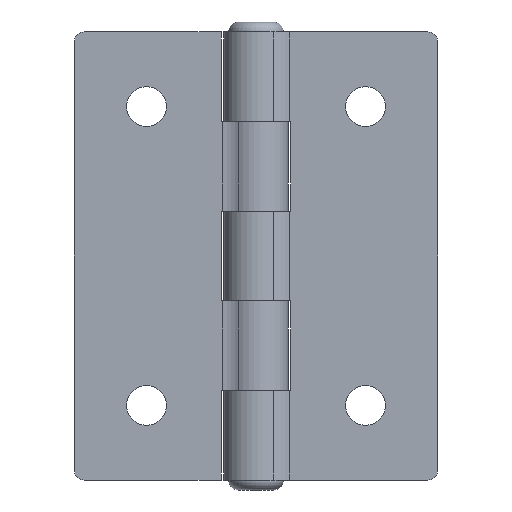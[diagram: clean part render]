
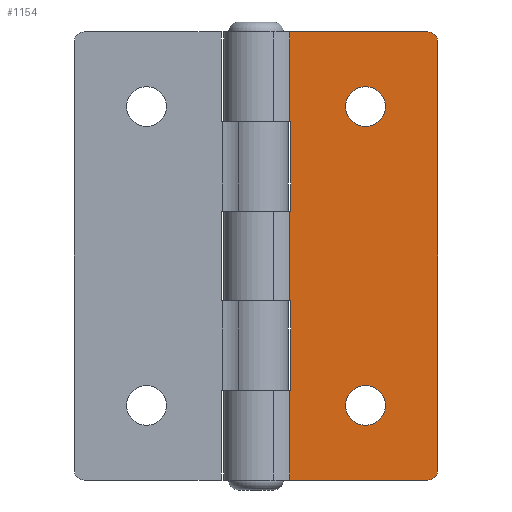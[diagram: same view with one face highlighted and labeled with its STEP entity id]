
A CAD part, front view. The second image highlights one B-rep face of the part: STEP entity #1154.
In plain terms, the highlighted planar face has unit normal (0, -1, 0).
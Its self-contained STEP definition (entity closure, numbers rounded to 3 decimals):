
#33=FACE_BOUND('',#185,.T.);
#34=FACE_BOUND('',#186,.T.);
#109=FACE_OUTER_BOUND('',#184,.T.);
#184=EDGE_LOOP('',(#948,#949,#950,#951,#952,#953,#954,#955,#956,#957,#958,
#959,#960,#961));
#185=EDGE_LOOP('',(#962));
#186=EDGE_LOOP('',(#963));
#272=CIRCLE('',#1268,1.);
#273=CIRCLE('',#1269,1.);
#274=CIRCLE('',#1270,2.);
#275=CIRCLE('',#1271,2.);
#342=LINE('',#1842,#438);
#346=LINE('',#1858,#442);
#349=LINE('',#1864,#445);
#352=LINE('',#1879,#448);
#356=LINE('',#1895,#452);
#359=LINE('',#1901,#455);
#362=LINE('',#1915,#458);
#363=LINE('',#1917,#459);
#364=LINE('',#1921,#460);
#365=LINE('',#1925,#461);
#366=LINE('',#1926,#462);
#367=LINE('',#1927,#463);
#438=VECTOR('',#1482,0.109);
#442=VECTOR('',#1496,9.);
#445=VECTOR('',#1501,0.109);
#448=VECTOR('',#1514,0.109);
#452=VECTOR('',#1528,9.);
#455=VECTOR('',#1533,0.109);
#458=VECTOR('',#1546,9.);
#459=VECTOR('',#1547,13.859);
#460=VECTOR('',#1550,43.);
#461=VECTOR('',#1553,13.859);
#462=VECTOR('',#1554,9.);
#463=VECTOR('',#1555,9.);
#538=VERTEX_POINT('',#1840);
#539=VERTEX_POINT('',#1841);
#546=VERTEX_POINT('',#1857);
#548=VERTEX_POINT('',#1863);
#554=VERTEX_POINT('',#1877);
#555=VERTEX_POINT('',#1878);
#562=VERTEX_POINT('',#1894);
#564=VERTEX_POINT('',#1900);
#570=VERTEX_POINT('',#1914);
#571=VERTEX_POINT('',#1916);
#572=VERTEX_POINT('',#1918);
#573=VERTEX_POINT('',#1920);
#574=VERTEX_POINT('',#1922);
#575=VERTEX_POINT('',#1924);
#576=VERTEX_POINT('',#1928);
#577=VERTEX_POINT('',#1930);
#674=EDGE_CURVE('',#538,#539,#342,.T.);
#682=EDGE_CURVE('',#546,#538,#346,.T.);
#685=EDGE_CURVE('',#548,#546,#349,.T.);
#692=EDGE_CURVE('',#554,#555,#352,.T.);
#700=EDGE_CURVE('',#562,#554,#356,.T.);
#703=EDGE_CURVE('',#564,#562,#359,.T.);
#710=EDGE_CURVE('',#539,#570,#362,.T.);
#711=EDGE_CURVE('',#570,#571,#363,.T.);
#712=EDGE_CURVE('',#571,#572,#272,.T.);
#713=EDGE_CURVE('',#573,#572,#364,.T.);
#714=EDGE_CURVE('',#573,#574,#273,.T.);
#715=EDGE_CURVE('',#574,#575,#365,.T.);
#716=EDGE_CURVE('',#575,#564,#366,.T.);
#717=EDGE_CURVE('',#555,#548,#367,.T.);
#718=EDGE_CURVE('',#576,#576,#274,.T.);
#719=EDGE_CURVE('',#577,#577,#275,.T.);
#948=ORIENTED_EDGE('',*,*,#685,.T.);
#949=ORIENTED_EDGE('',*,*,#682,.T.);
#950=ORIENTED_EDGE('',*,*,#674,.T.);
#951=ORIENTED_EDGE('',*,*,#710,.T.);
#952=ORIENTED_EDGE('',*,*,#711,.T.);
#953=ORIENTED_EDGE('',*,*,#712,.T.);
#954=ORIENTED_EDGE('',*,*,#713,.F.);
#955=ORIENTED_EDGE('',*,*,#714,.T.);
#956=ORIENTED_EDGE('',*,*,#715,.T.);
#957=ORIENTED_EDGE('',*,*,#716,.T.);
#958=ORIENTED_EDGE('',*,*,#703,.T.);
#959=ORIENTED_EDGE('',*,*,#700,.T.);
#960=ORIENTED_EDGE('',*,*,#692,.T.);
#961=ORIENTED_EDGE('',*,*,#717,.T.);
#962=ORIENTED_EDGE('',*,*,#718,.F.);
#963=ORIENTED_EDGE('',*,*,#719,.F.);
#1108=PLANE('',#1267);
#1154=ADVANCED_FACE('',(#109,#33,#34),#1108,.F.);
#1267=AXIS2_PLACEMENT_3D('',#1913,#1544,#1545);
#1268=AXIS2_PLACEMENT_3D('',#1919,#1548,#1549);
#1269=AXIS2_PLACEMENT_3D('',#1923,#1551,#1552);
#1270=AXIS2_PLACEMENT_3D('',#1929,#1556,#1557);
#1271=AXIS2_PLACEMENT_3D('',#1931,#1558,#1559);
#1482=DIRECTION('',(-1.,0.,0.));
#1496=DIRECTION('',(0.,0.,-1.));
#1501=DIRECTION('',(1.,0.,0.));
#1514=DIRECTION('',(-1.,0.,0.));
#1528=DIRECTION('',(0.,0.,-1.));
#1533=DIRECTION('',(1.,0.,0.));
#1544=DIRECTION('center_axis',(0.,1.,0.));
#1545=DIRECTION('ref_axis',(-1.,0.,0.));
#1546=DIRECTION('',(0.,0.,-1.));
#1547=DIRECTION('',(1.,0.,0.));
#1548=DIRECTION('center_axis',(0.,-1.,0.));
#1549=DIRECTION('ref_axis',(0.707,0.,-0.707));
#1550=DIRECTION('',(0.,0.,-1.));
#1551=DIRECTION('center_axis',(0.,-1.,0.));
#1552=DIRECTION('ref_axis',(0.707,0.,0.707));
#1553=DIRECTION('',(-1.,0.,0.));
#1554=DIRECTION('',(0.,0.,-1.));
#1555=DIRECTION('',(0.,0.,-1.));
#1556=DIRECTION('center_axis',(0.,-1.,0.));
#1557=DIRECTION('ref_axis',(-1.,0.,0.));
#1558=DIRECTION('center_axis',(0.,-1.,0.));
#1559=DIRECTION('ref_axis',(-1.,0.,0.));
#1840=CARTESIAN_POINT('',(3.5,-2.25,-13.5));
#1841=CARTESIAN_POINT('',(3.391,-2.25,-13.5));
#1842=CARTESIAN_POINT('',(7.375,-2.25,-13.5));
#1857=CARTESIAN_POINT('',(3.5,-2.25,-4.5));
#1858=CARTESIAN_POINT('',(3.5,-2.25,-6.75));
#1863=CARTESIAN_POINT('',(3.391,-2.25,-4.5));
#1864=CARTESIAN_POINT('',(10.875,-2.25,-4.5));
#1877=CARTESIAN_POINT('',(3.5,-2.25,4.5));
#1878=CARTESIAN_POINT('',(3.391,-2.25,4.5));
#1879=CARTESIAN_POINT('',(7.375,-2.25,4.5));
#1894=CARTESIAN_POINT('',(3.5,-2.25,13.5));
#1895=CARTESIAN_POINT('',(3.5,-2.25,2.25));
#1900=CARTESIAN_POINT('',(3.391,-2.25,13.5));
#1901=CARTESIAN_POINT('',(10.875,-2.25,13.5));
#1913=CARTESIAN_POINT('Origin',(18.25,-2.25,0.));
#1914=CARTESIAN_POINT('',(3.391,-2.25,-22.5));
#1915=CARTESIAN_POINT('',(3.391,-2.25,0.));
#1916=CARTESIAN_POINT('',(17.25,-2.25,-22.5));
#1917=CARTESIAN_POINT('',(18.25,-2.25,-22.5));
#1918=CARTESIAN_POINT('',(18.25,-2.25,-21.5));
#1919=CARTESIAN_POINT('Origin',(17.25,-2.25,-21.5));
#1920=CARTESIAN_POINT('',(18.25,-2.25,21.5));
#1921=CARTESIAN_POINT('',(18.25,-2.25,0.));
#1922=CARTESIAN_POINT('',(17.25,-2.25,22.5));
#1923=CARTESIAN_POINT('Origin',(17.25,-2.25,21.5));
#1924=CARTESIAN_POINT('',(3.391,-2.25,22.5));
#1925=CARTESIAN_POINT('',(18.25,-2.25,22.5));
#1926=CARTESIAN_POINT('',(3.391,-2.25,0.));
#1927=CARTESIAN_POINT('',(3.391,-2.25,0.));
#1928=CARTESIAN_POINT('',(13.,-2.25,15.));
#1929=CARTESIAN_POINT('Origin',(11.,-2.25,15.));
#1930=CARTESIAN_POINT('',(13.,-2.25,-15.));
#1931=CARTESIAN_POINT('Origin',(11.,-2.25,-15.));
